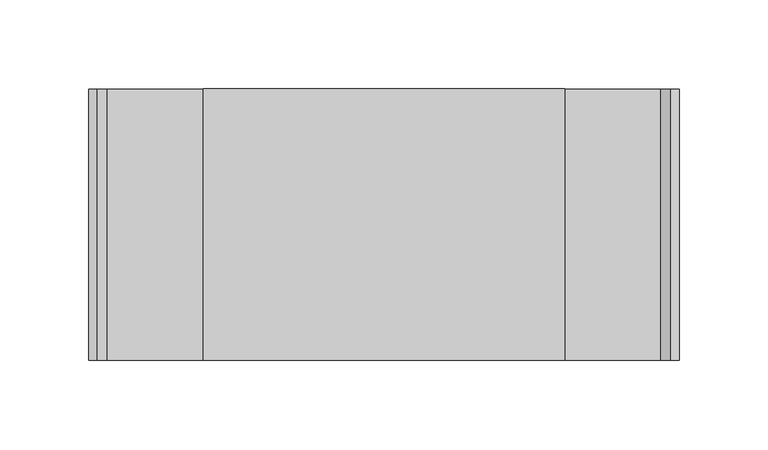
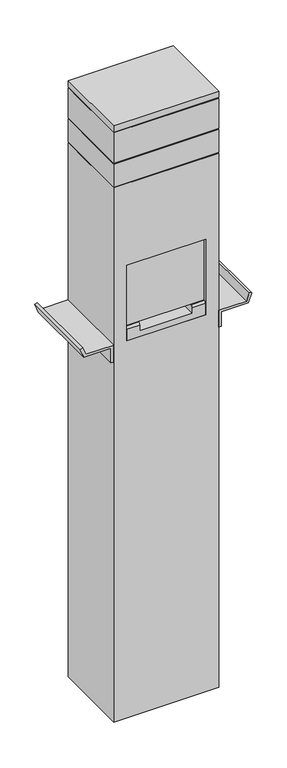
"""IFC4 building model written with IfcOpenShell, lengths in millimetres: proxy geometry, Charging_Station-Wiremold-Area_Light : Outdoor Charging Station with Area Light, 3 Gangs (1x GFCI, 2x 4USB), Silver."""

from ifc_helpers import new_model, si_unit, frame, origin, origin_with_axes, place, context, project, spatial, polyline, circle_curve, outline, extrude, faceted_brep, source, transform, mapped, element, save
from ifc_brep_helpers import plane_surface, revolved_surface, advanced_brep


def electrical_fixtures_061f7b29(model_context):
    return source(origin(), model_context, "Body", "SolidModel", [
        extrude(outline(polyline([(736.2825, -106.68), (736.2825, -101.6), (770.89, -101.6), (770.89, -155.575), (785.8125, -161.0063458), (784.0750377, -165.7799843), (765.81, -159.1320543), (765.81, -106.68), (736.2825, -106.68)])), frame((0.0, -76.2, 0.0), z_axis=(0.0, 1.0, 0.0), x_axis=(0.0, 0.0, 1.0)), (0.0, 0.0, 1.0), 152.4),
        extrude(outline(polyline([(736.2825, 106.68), (765.81, 106.68), (765.81, 159.1320543), (784.0750377, 165.7799843), (785.8125, 161.0063458), (770.89, 155.575), (770.89, 101.6), (736.2825, 101.6), (736.2825, 106.68)])), frame((0.0, -76.2, 0.0), z_axis=(0.0, 1.0, 0.0), x_axis=(0.0, 0.0, 1.0)), (0.0, 0.0, 1.0), 152.4),
        extrude(outline(polyline([(76.2, -38.1), (76.2, -70.612), (-76.2, -70.612), (-76.2, -38.1), (76.2, -38.1)])), frame((0.0, 0.0, 798.068), z_axis=(0.0, 0.0, 1.0), x_axis=(1.0, 0.0, 0.0)), (0.0, 0.0, 1.0), 158.75),
        faceted_brep([(76.2, -76.2, 770.89), (76.2, 19.05, 770.89), (76.2, 19.05, 798.068), (76.2, -72.136, 798.068), (76.2, -76.2, 794.004), (-76.2, -76.2, 770.89), (-76.2, -76.2, 794.004), (-76.2, -72.136, 798.068), (-76.2, 19.05, 798.068), (-76.2, 19.05, 770.89), (-50.8, -72.136, 798.068), (-50.8, -31.8809117, 798.068), (50.8, -31.8809117, 798.068), (50.8, -72.136, 798.068), (50.8, -76.2, 794.004), (50.8, -76.2, 782.193), (-50.8, -76.2, 782.193), (-50.8, -76.2, 794.004), (50.8, -50.8, 782.193), (-50.8, -50.8, 782.193)], [[[0, 1, 2, 3, 4]], [[5, 6, 7, 8, 9]], [[1, 0, 5, 9]], [[2, 1, 9, 8]], [[3, 2, 8, 7, 10, 11, 12, 13]], [[0, 4, 14, 15, 16, 17, 6, 5]], [[12, 18, 15, 14, 13]], [[16, 19, 11, 10, 17]], [[18, 12, 11, 19]], [[15, 18, 19, 16]], [[4, 3, 13, 14]], [[7, 6, 17, 10]]]),
        advanced_brep(
        [(101.6, 76.2, 1092.2), (-101.6, 76.2, 1092.2), (-101.6, -76.2, 1092.2), (101.6, -76.2, 1092.2), (101.6, 76.2, 0.0), (101.6, -76.2, 0.0), (-101.6, -76.2, 0.0), (-101.6, 76.2, 0.0), (-55.0037, 0.0, 0.0), (55.0037, 0.0, 0.0), (76.2, -76.2, 925.068), (76.2, -76.2, 770.89), (-76.2, -76.2, 770.89), (-76.2, -76.2, 925.068), (76.2, 19.05, 925.068), (76.2, 19.05, 770.89), (76.2, -70.612, 925.068), (76.2, -70.612, 956.818), (76.2, -38.1, 956.818), (76.2, -38.1, 925.068), (-76.2, 19.05, 925.068), (-76.2, -38.1, 925.068), (-76.2, -38.1, 956.818), (-76.2, -70.612, 956.818), (-76.2, -70.612, 925.068), (-76.2, 19.05, 770.89), (-55.0037, 0.0, 203.2), (55.0037, 0.0, 203.2)],
        [
            (0, 1),
            (1, 2),
            (2, 3),
            (3, 0),
            (4, 5),
            (5, 6),
            (6, 7),
            (7, 4),
            (8, 9, circle_curve(origin_with_axes(), 55.0037)),
            (9, 8, circle_curve(origin_with_axes(), 55.0037)),
            (0, 4),
            (7, 1),
            (6, 2),
            (5, 3),
            (10, 11),
            (11, 12),
            (12, 13),
            (13, 10),
            (14, 15),
            (15, 11),
            (10, 16),
            (16, 17),
            (17, 18),
            (18, 19),
            (19, 14),
            (20, 21),
            (21, 22),
            (22, 23),
            (23, 24),
            (24, 13),
            (12, 25),
            (25, 20),
            (19, 21),
            (20, 14),
            (15, 25),
            (18, 22),
            (17, 23),
            (16, 24),
            (26, 27, circle_curve(frame((0.0, 0.0, 203.2), z_axis=(0.0, 0.0, -1.0), x_axis=(1.0, 0.0, 0.0)), 55.0037)),
            (27, 26, circle_curve(frame((0.0, 0.0, 203.2), z_axis=(0.0, 0.0, -1.0), x_axis=(1.0, 0.0, 0.0)), 55.0037)),
            (27, 9),
            (8, 26),
        ],
        [
            plane_surface(frame((-101.6, 76.2, 1092.2), z_axis=(0.0, 0.0, 1.0), x_axis=(-1.0, 0.0, 0.0))),
            plane_surface(frame((-101.6, 76.2, 0.0), z_axis=(0.0, 0.0, -1.0), x_axis=(1.0, 0.0, 0.0))),
            plane_surface(frame((101.6, 76.2, 1092.2), z_axis=(0.0, 1.0, 0.0), x_axis=(0.0, 0.0, -1.0))),
            plane_surface(frame((-101.6, 76.2, 1092.2), z_axis=(-1.0, 0.0, 0.0), x_axis=(0.0, 0.0, -1.0))),
            plane_surface(frame((-101.6, -76.2, 1092.2), z_axis=(0.0, -1.0, 0.0), x_axis=(0.0, 0.0, -1.0))),
            plane_surface(frame((101.6, -76.2, 1092.2), z_axis=(1.0, 0.0, 0.0), x_axis=(0.0, 0.0, -1.0))),
            plane_surface(frame((76.2, -38.1, 925.068), z_axis=(-1.0, 0.0, 0.0), x_axis=(0.0, -1.0, 0.0))),
            plane_surface(frame((-76.2, -38.1, 925.068), z_axis=(1.0, 0.0, 0.0), x_axis=(0.0, 1.0, 0.0))),
            plane_surface(frame((76.2, 19.05, 925.068), z_axis=(0.0, 0.0, -1.0), x_axis=(-1.0, 0.0, 0.0))),
            plane_surface(frame((76.2, -76.2, 770.89), z_axis=(0.0, 0.0, 1.0), x_axis=(-1.0, 0.0, 0.0))),
            plane_surface(frame((76.2, 19.05, 770.89), z_axis=(0.0, -1.0, 0.0), x_axis=(-1.0, 0.0, 0.0))),
            plane_surface(frame((76.2, -38.1, 925.068), z_axis=(0.0, -1.0, 0.0), x_axis=(-1.0, 0.0, 0.0))),
            plane_surface(frame((76.2, -38.1, 956.818), z_axis=(0.0, 0.0, -1.0), x_axis=(-1.0, 0.0, 0.0))),
            plane_surface(frame((76.2, -70.612, 956.818), z_axis=(0.0, 1.0, 0.0), x_axis=(-1.0, 0.0, 0.0))),
            plane_surface(frame((76.2, -70.612, 925.068), z_axis=(0.0, 0.0, -1.0), x_axis=(-1.0, 0.0, 0.0))),
            plane_surface(frame((55.0037, 0.0, 203.2), z_axis=(0.0, 0.0, -1.0), x_axis=(0.0, 1.0, 0.0))),
            revolved_surface(polyline([(55.0037, 0.0, 203.2), (55.0037, 0.0, 0.0)]), (0.0, 0.0, 0.0), (0.0, 0.0, 1.0)),
        ],
        [
            (0, [[1, 2, 3, 4]]),
            (1, [[5, 6, 7, 8], [9, 10]]),
            (2, [[-1, 11, -8, 12]]),
            (3, [[-2, -12, -7, 13]]),
            (4, [[-3, -13, -6, 14], [15, 16, 17, 18]]),
            (5, [[-4, -14, -5, -11]]),
            (6, [[19, 20, -15, 21, 22, 23, 24, 25]]),
            (7, [[26, 27, 28, 29, 30, -17, 31, 32]]),
            (8, [[-25, 33, -26, 34]]),
            (9, [[-20, 35, -31, -16]]),
            (10, [[-19, -34, -32, -35]]),
            (11, [[-24, 36, -27, -33]]),
            (12, [[-23, 37, -28, -36]]),
            (13, [[-22, 38, -29, -37]]),
            (14, [[-21, -18, -30, -38]]),
            (15, [[39, 40]]),
            (16, [[-40, 41, -9, 42]]),
            (16, [[-39, -42, -10, -41]]),
        ],
    ),
        extrude(outline(polyline([(99.822, 74.422), (99.822, -74.422), (-99.822, -74.422), (-99.822, 74.422), (99.822, 74.422)])), frame((0.0, 0.0, 1204.722), z_axis=(0.0, 0.0, 1.0), x_axis=(1.0, 0.0, 0.0)), (0.0, 0.0, 1.0), 1.778),
        extrude(outline(polyline([(99.822, 74.422), (99.822, -74.422), (-99.822, -74.422), (-99.822, 74.422), (99.822, 74.422)])), frame((0.0, 0.0, 1141.222), z_axis=(0.0, 0.0, 1.0), x_axis=(1.0, 0.0, 0.0)), (0.0, 0.0, 1.0), 1.778),
        extrude(outline(polyline([(99.822, 74.422), (99.822, -74.422), (-99.822, -74.422), (-99.822, 74.422), (99.822, 74.422)])), frame((0.0, 0.0, 1092.2), z_axis=(0.0, 0.0, 1.0), x_axis=(1.0, 0.0, 0.0)), (0.0, 0.0, 1.0), 1.778),
        extrude(outline(polyline([(101.6, 76.2), (101.6, -76.2), (-101.6, -76.2), (-101.6, 76.2), (101.6, 76.2)])), frame((0.0, 0.0, 1206.5), z_axis=(0.0, 0.0, 1.0), x_axis=(1.0, 0.0, 0.0)), (0.0, 0.0, 1.0), 12.7),
        extrude(outline(polyline([(101.6, 76.2), (101.6, -76.2), (-101.6, -76.2), (-101.6, 76.2), (101.6, 76.2)])), frame((0.0, 0.0, 1143.0), z_axis=(0.0, 0.0, 1.0), x_axis=(1.0, 0.0, 0.0)), (0.0, 0.0, 1.0), 61.722),
        extrude(outline(polyline([(101.6, 76.2), (101.6, -76.2), (-101.6, -76.2), (-101.6, 76.2), (101.6, 76.2)])), frame((0.0, 0.0, 1093.978), z_axis=(0.0, 0.0, 1.0), x_axis=(1.0, 0.0, 0.0)), (0.0, 0.0, 1.0), 47.244),
    ])


if __name__ == "__main__":
    model = new_model("IFC4")
    model_context = context("Model", 3, world=origin())
    ifc_project = project(units=[si_unit("LENGTHUNIT", "METRE", prefix="MILLI")], contexts=[model_context])
    site = spatial("IfcSite", under=ifc_project)
    building = spatial("IfcBuilding", under=site)
    placement = place(None, origin())
    electrical_fixtures_shape = electrical_fixtures_061f7b29(model_context)
    element("IfcBuildingElementProxy", 1, Name="Charging_Station-Wiremold-Area_Light : Outdoor Charging Station with Area Light, 3 Gangs (1x GFCI, 2x 4USB), Silver", ObjectType="Charging_Station-Wiremold-Area_Light : Outdoor Charging Station with Area Light, 3 Gangs (1x GFCI, 2x 4USB), Silver", at=placement, inside=building, context=model_context, shape_type="MappedRepresentation", body=[
        mapped(electrical_fixtures_shape, transform((0.0, 0.0, 0.0), x_axis=(1.0, 0.0, 0.0), y_axis=(0.0, 1.0, 0.0), z_axis=(0.0, 0.0, 1.0))),
    ])
    save(model, "model.ifc")
